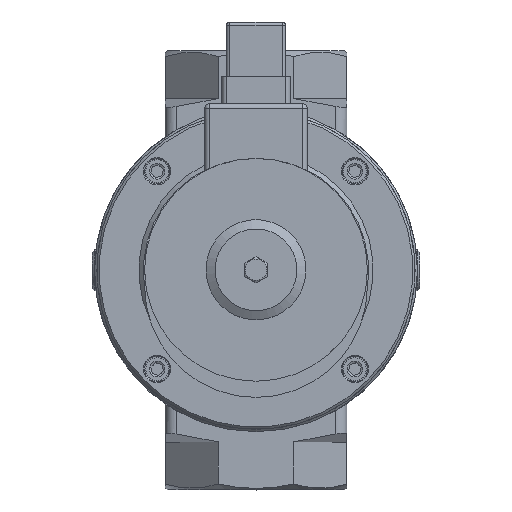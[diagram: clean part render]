
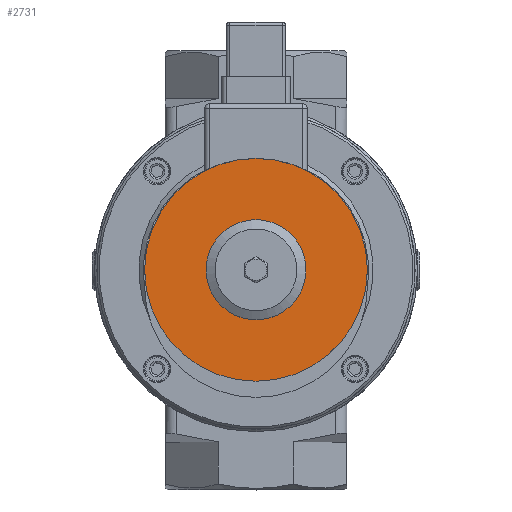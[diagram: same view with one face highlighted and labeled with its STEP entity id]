
A CAD part, top view. The second image highlights one B-rep face of the part: STEP entity #2731.
In plain terms, the highlighted planar face has unit normal (0, 0, 1).
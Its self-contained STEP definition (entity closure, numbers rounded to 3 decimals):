
#2731 = ADVANCED_FACE( '', ( #4326, #4327 ), #4328, .F. );
#4326 = FACE_BOUND( '', #7241, .T. );
#4327 = FACE_OUTER_BOUND( '', #7242, .T. );
#4328 = PLANE( '', #7243 );
#7241 = EDGE_LOOP( '', ( #11117 ) );
#7242 = EDGE_LOOP( '', ( #11118 ) );
#7243 = AXIS2_PLACEMENT_3D( '', #11119, #11120, #11121 );
#11117 = ORIENTED_EDGE( '', *, *, #12050, .T. );
#11118 = ORIENTED_EDGE( '', *, *, #12033, .F. );
#11119 = CARTESIAN_POINT( '', ( 0., -7., 80. ) );
#11120 = DIRECTION( '', ( 0., 0., -1. ) );
#11121 = DIRECTION( '', ( -1., 0., 0. ) );
#12033 = EDGE_CURVE( '', #13753, #13753, #13754, .T. );
#12050 = EDGE_CURVE( '', #13782, #13782, #13783, .T. );
#13753 = VERTEX_POINT( '', #17105 );
#13754 = CIRCLE( '', #17106, 49. );
#13782 = VERTEX_POINT( '', #17194 );
#13783 = CIRCLE( '', #17195, 20. );
#17105 = CARTESIAN_POINT( '', ( 0., 42., 80. ) );
#17106 = AXIS2_PLACEMENT_3D( '', #19090, #19091, #19092 );
#17194 = CARTESIAN_POINT( '', ( 0., 13., 80. ) );
#17195 = AXIS2_PLACEMENT_3D( '', #19117, #19118, #19119 );
#19090 = CARTESIAN_POINT( '', ( 0., -7., 80. ) );
#19091 = DIRECTION( '', ( 0., 0., -1. ) );
#19092 = DIRECTION( '', ( 0., 1., 0. ) );
#19117 = CARTESIAN_POINT( '', ( 0., -7., 80. ) );
#19118 = DIRECTION( '', ( 0., 0., -1. ) );
#19119 = DIRECTION( '', ( 0., 1., 0. ) );
